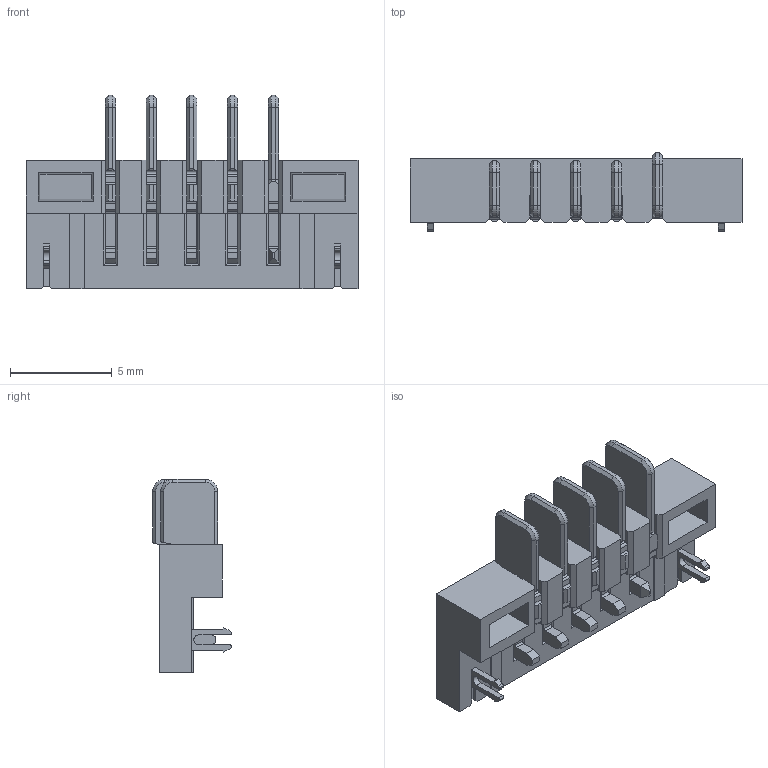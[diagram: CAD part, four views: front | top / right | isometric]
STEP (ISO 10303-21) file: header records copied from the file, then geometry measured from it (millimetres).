
FILE_DESCRIPTION((''),'2;1');
FILE_NAME('S-50972-005XX-XXX','2009-06-15T',('12209346'),(''),'PRO/ENGINEER BY PARAMETRIC TECHNOLOGY CORPORATION, 2007370','PRO/ENGINEER BY PARAMETRIC TECHNOLOGY CORPORATION, 2007370','');
FILE_SCHEMA(('CONFIG_CONTROL_DESIGN'));
Length unit declared in the file: millimetre
Products named in the file (1): S-50972-005XX-XXX
Bounding box: 16.33 x 3.88 x 9.51 mm (x, y, z)
Volume: 211.6 mm3; surface area: 770.4 mm2
Topology: 1 solids, 1 shells, 596 faces, 1715 edges, 1107 vertices
Faces by surface type: plane 436, cylinder 136, cone 22, bspline 2
Entity records: 19736 total; most frequent: CARTESIAN_POINT 3937, ORIENTED_EDGE 3430, DIRECTION 3110, EDGE_CURVE 1715, VECTOR 1386, LINE 1386, VERTEX_POINT 1107, AXIS2_PLACEMENT_3D 862
